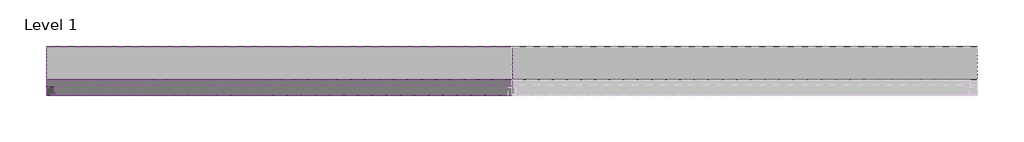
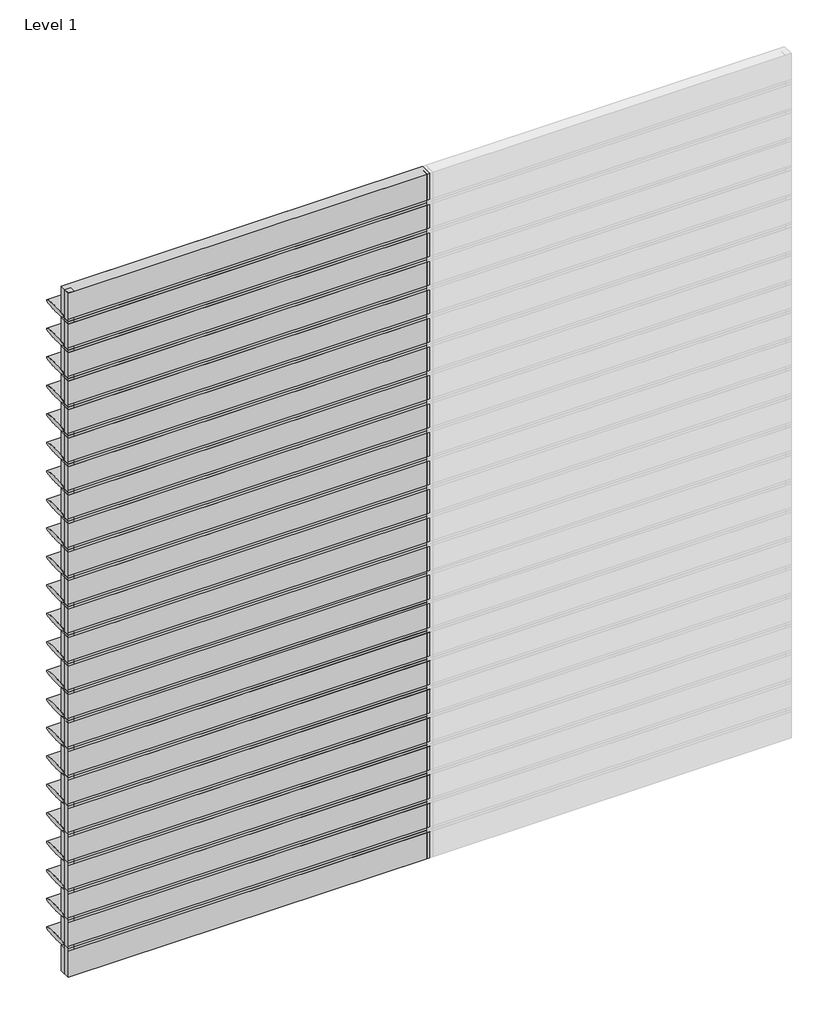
# One storey, part 1 of 2: 59 members, 48 plates.
"""IFC4 building model written with IfcOpenShell, lengths in millimetres."""

from ifc_helpers import new_model, si_unit, origin, place, context, project, spatial, transform, mapped, element, save
from components import rectangular_mullion_1c901da9, rectangular_mullion_eeaea343, empty_system_panel_empty_899e99c9, empty_system_panel_empty_cb8dddf3, empty_system_panel_empty_839ed214

model = new_model("IFC4")

# Units and contexts
model_context = context("Model", 3, world=origin())
ifc_project = project(units=[si_unit("LENGTHUNIT", "METRE", prefix="MILLI")], contexts=[model_context])

# Site, building, storey
site = spatial("IfcSite", under=ifc_project)
building = spatial("IfcBuilding", under=site)
storey = spatial("IfcBuildingStorey", under=building, Name="Level 1", Elevation=0.0)

# Members
placement = place(None, origin())
rectangular_mullion_shape = rectangular_mullion_1c901da9(model_context)
element("IfcMember", 1, ObjectType="Rectangular Mullion : RSen_21_CWM_blade - 250 ellips - 0°_gen_duco projects", at=placement, inside=storey, context=model_context, shape_type="MappedRepresentation", body=[
    mapped(rectangular_mullion_shape, transform((3000.0, 3000.0, 250.0), x_axis=(0.0, 0.0, 1.0), y_axis=(0.0, 1.0, 0.0), z_axis=(-1.0, 0.0, 0.0))),
])
element("IfcMember", 2, ObjectType="Rectangular Mullion : RSen_21_CWM_blade - 250 ellips - 0°_gen_duco projects", at=placement, inside=storey, context=model_context, shape_type="MappedRepresentation", body=[
    mapped(rectangular_mullion_shape, transform((3000.0, 3000.0, 500.0), x_axis=(0.0, 0.0, 1.0), y_axis=(0.0, 1.0, 0.0), z_axis=(-1.0, 0.0, 0.0))),
])
element("IfcMember", 3, ObjectType="Rectangular Mullion : RSen_21_CWM_blade - 250 ellips - 0°_gen_duco projects", at=placement, inside=storey, context=model_context, shape_type="MappedRepresentation", body=[
    mapped(rectangular_mullion_shape, transform((3000.0, 3000.0, 750.0), x_axis=(0.0, 0.0, 1.0), y_axis=(0.0, 1.0, 0.0), z_axis=(-1.0, 0.0, 0.0))),
])
element("IfcMember", 4, ObjectType="Rectangular Mullion : RSen_21_CWM_blade - 250 ellips - 0°_gen_duco projects", at=placement, inside=storey, context=model_context, shape_type="MappedRepresentation", body=[
    mapped(rectangular_mullion_shape, transform((3000.0, 3000.0, 1000.0), x_axis=(0.0, 0.0, 1.0), y_axis=(0.0, 1.0, 0.0), z_axis=(-1.0, 0.0, 0.0))),
])
element("IfcMember", 5, ObjectType="Rectangular Mullion : RSen_21_CWM_blade - 250 ellips - 0°_gen_duco projects", at=placement, inside=storey, context=model_context, shape_type="MappedRepresentation", body=[
    mapped(rectangular_mullion_shape, transform((3000.0, 3000.0, 1250.0), x_axis=(0.0, 0.0, 1.0), y_axis=(0.0, 1.0, 0.0), z_axis=(-1.0, 0.0, 0.0))),
])
element("IfcMember", 6, ObjectType="Rectangular Mullion : RSen_21_CWM_blade - 250 ellips - 0°_gen_duco projects", at=placement, inside=storey, context=model_context, shape_type="MappedRepresentation", body=[
    mapped(rectangular_mullion_shape, transform((3000.0, 3000.0, 1500.0), x_axis=(0.0, 0.0, 1.0), y_axis=(0.0, 1.0, 0.0), z_axis=(-1.0, 0.0, 0.0))),
])
element("IfcMember", 7, ObjectType="Rectangular Mullion : RSen_21_CWM_blade - 250 ellips - 0°_gen_duco projects", at=placement, inside=storey, context=model_context, shape_type="MappedRepresentation", body=[
    mapped(rectangular_mullion_shape, transform((3000.0, 3000.0, 1750.0), x_axis=(0.0, 0.0, 1.0), y_axis=(0.0, 1.0, 0.0), z_axis=(-1.0, 0.0, 0.0))),
])
element("IfcMember", 8, ObjectType="Rectangular Mullion : RSen_21_CWM_blade - 250 ellips - 0°_gen_duco projects", at=placement, inside=storey, context=model_context, shape_type="MappedRepresentation", body=[
    mapped(rectangular_mullion_shape, transform((3000.0, 3000.0, 2000.0), x_axis=(0.0, 0.0, 1.0), y_axis=(0.0, 1.0, 0.0), z_axis=(-1.0, 0.0, 0.0))),
])
element("IfcMember", 9, ObjectType="Rectangular Mullion : RSen_21_CWM_blade - 250 ellips - 0°_gen_duco projects", at=placement, inside=storey, context=model_context, shape_type="MappedRepresentation", body=[
    mapped(rectangular_mullion_shape, transform((3000.0, 3000.0, 2250.0), x_axis=(0.0, 0.0, 1.0), y_axis=(0.0, 1.0, 0.0), z_axis=(-1.0, 0.0, 0.0))),
])
element("IfcMember", 10, ObjectType="Rectangular Mullion : RSen_21_CWM_blade - 250 ellips - 0°_gen_duco projects", at=placement, inside=storey, context=model_context, shape_type="MappedRepresentation", body=[
    mapped(rectangular_mullion_shape, transform((3000.0, 3000.0, 2500.0), x_axis=(0.0, 0.0, 1.0), y_axis=(0.0, 1.0, 0.0), z_axis=(-1.0, 0.0, 0.0))),
])
element("IfcMember", 11, ObjectType="Rectangular Mullion : RSen_21_CWM_blade - 250 ellips - 0°_gen_duco projects", at=placement, inside=storey, context=model_context, shape_type="MappedRepresentation", body=[
    mapped(rectangular_mullion_shape, transform((3000.0, 3000.0, 2750.0), x_axis=(0.0, 0.0, 1.0), y_axis=(0.0, 1.0, 0.0), z_axis=(-1.0, 0.0, 0.0))),
])
element("IfcMember", 12, ObjectType="Rectangular Mullion : RSen_21_CWM_blade - 250 ellips - 0°_gen_duco projects", at=placement, inside=storey, context=model_context, shape_type="MappedRepresentation", body=[
    mapped(rectangular_mullion_shape, transform((3000.0, 3000.0, 3000.0), x_axis=(0.0, 0.0, 1.0), y_axis=(0.0, 1.0, 0.0), z_axis=(-1.0, 0.0, 0.0))),
])
element("IfcMember", 13, ObjectType="Rectangular Mullion : RSen_21_CWM_blade - 250 ellips - 0°_gen_duco projects", at=placement, inside=storey, context=model_context, shape_type="MappedRepresentation", body=[
    mapped(rectangular_mullion_shape, transform((0.0, 3000.0, 250.0), x_axis=(0.0, 0.0, 1.0), y_axis=(0.0, 1.0, 0.0), z_axis=(-1.0, 0.0, 0.0))),
])
element("IfcMember", 14, ObjectType="Rectangular Mullion : RSen_21_CWM_blade - 250 ellips - 0°_gen_duco projects", at=placement, inside=storey, context=model_context, shape_type="MappedRepresentation", body=[
    mapped(rectangular_mullion_shape, transform((0.0, 3000.0, 500.0), x_axis=(0.0, 0.0, 1.0), y_axis=(0.0, 1.0, 0.0), z_axis=(-1.0, 0.0, 0.0))),
])
element("IfcMember", 15, ObjectType="Rectangular Mullion : RSen_21_CWM_blade - 250 ellips - 0°_gen_duco projects", at=placement, inside=storey, context=model_context, shape_type="MappedRepresentation", body=[
    mapped(rectangular_mullion_shape, transform((0.0, 3000.0, 750.0), x_axis=(0.0, 0.0, 1.0), y_axis=(0.0, 1.0, 0.0), z_axis=(-1.0, 0.0, 0.0))),
])
element("IfcMember", 16, ObjectType="Rectangular Mullion : RSen_21_CWM_blade - 250 ellips - 0°_gen_duco projects", at=placement, inside=storey, context=model_context, shape_type="MappedRepresentation", body=[
    mapped(rectangular_mullion_shape, transform((0.0, 3000.0, 1000.0), x_axis=(0.0, 0.0, 1.0), y_axis=(0.0, 1.0, 0.0), z_axis=(-1.0, 0.0, 0.0))),
])
element("IfcMember", 17, ObjectType="Rectangular Mullion : RSen_21_CWM_blade - 250 ellips - 0°_gen_duco projects", at=placement, inside=storey, context=model_context, shape_type="MappedRepresentation", body=[
    mapped(rectangular_mullion_shape, transform((0.0, 3000.0, 1250.0), x_axis=(0.0, 0.0, 1.0), y_axis=(0.0, 1.0, 0.0), z_axis=(-1.0, 0.0, 0.0))),
])
element("IfcMember", 18, ObjectType="Rectangular Mullion : RSen_21_CWM_blade - 250 ellips - 0°_gen_duco projects", at=placement, inside=storey, context=model_context, shape_type="MappedRepresentation", body=[
    mapped(rectangular_mullion_shape, transform((0.0, 3000.0, 1500.0), x_axis=(0.0, 0.0, 1.0), y_axis=(0.0, 1.0, 0.0), z_axis=(-1.0, 0.0, 0.0))),
])
element("IfcMember", 19, ObjectType="Rectangular Mullion : RSen_21_CWM_blade - 250 ellips - 0°_gen_duco projects", at=placement, inside=storey, context=model_context, shape_type="MappedRepresentation", body=[
    mapped(rectangular_mullion_shape, transform((0.0, 3000.0, 1750.0), x_axis=(0.0, 0.0, 1.0), y_axis=(0.0, 1.0, 0.0), z_axis=(-1.0, 0.0, 0.0))),
])
element("IfcMember", 20, ObjectType="Rectangular Mullion : RSen_21_CWM_blade - 250 ellips - 0°_gen_duco projects", at=placement, inside=storey, context=model_context, shape_type="MappedRepresentation", body=[
    mapped(rectangular_mullion_shape, transform((0.0, 3000.0, 2000.0), x_axis=(0.0, 0.0, 1.0), y_axis=(0.0, 1.0, 0.0), z_axis=(-1.0, 0.0, 0.0))),
])
element("IfcMember", 21, ObjectType="Rectangular Mullion : RSen_21_CWM_blade - 250 ellips - 0°_gen_duco projects", at=placement, inside=storey, context=model_context, shape_type="MappedRepresentation", body=[
    mapped(rectangular_mullion_shape, transform((0.0, 3000.0, 2250.0), x_axis=(0.0, 0.0, 1.0), y_axis=(0.0, 1.0, 0.0), z_axis=(-1.0, 0.0, 0.0))),
])
element("IfcMember", 22, ObjectType="Rectangular Mullion : RSen_21_CWM_blade - 250 ellips - 0°_gen_duco projects", at=placement, inside=storey, context=model_context, shape_type="MappedRepresentation", body=[
    mapped(rectangular_mullion_shape, transform((0.0, 3000.0, 2500.0), x_axis=(0.0, 0.0, 1.0), y_axis=(0.0, 1.0, 0.0), z_axis=(-1.0, 0.0, 0.0))),
])
element("IfcMember", 23, ObjectType="Rectangular Mullion : RSen_21_CWM_blade - 250 ellips - 0°_gen_duco projects", at=placement, inside=storey, context=model_context, shape_type="MappedRepresentation", body=[
    mapped(rectangular_mullion_shape, transform((0.0, 3000.0, 2750.0), x_axis=(0.0, 0.0, 1.0), y_axis=(0.0, 1.0, 0.0), z_axis=(-1.0, 0.0, 0.0))),
])
element("IfcMember", 24, ObjectType="Rectangular Mullion : RSen_21_CWM_blade - 250 ellips - 0°_gen_duco projects", at=placement, inside=storey, context=model_context, shape_type="MappedRepresentation", body=[
    mapped(rectangular_mullion_shape, transform((0.0, 3000.0, 3000.0), x_axis=(0.0, 0.0, 1.0), y_axis=(0.0, 1.0, 0.0), z_axis=(-1.0, 0.0, 0.0))),
])
element("IfcMember", 25, ObjectType="Rectangular Mullion : RSen_21_CWM_blade - 250 ellips - 0°_gen_duco projects", at=placement, inside=storey, context=model_context, shape_type="MappedRepresentation", body=[
    mapped(rectangular_mullion_shape, transform((0.0, 3000.0, 3250.0), x_axis=(0.0, 0.0, 1.0), y_axis=(0.0, 1.0, 0.0), z_axis=(-1.0, 0.0, 0.0))),
])
element("IfcMember", 26, ObjectType="Rectangular Mullion : RSen_21_CWM_blade - 250 ellips - 0°_gen_duco projects", at=placement, inside=storey, context=model_context, shape_type="MappedRepresentation", body=[
    mapped(rectangular_mullion_shape, transform((0.0, 3000.0, 3500.0), x_axis=(0.0, 0.0, 1.0), y_axis=(0.0, 1.0, 0.0), z_axis=(-1.0, 0.0, 0.0))),
])
element("IfcMember", 27, ObjectType="Rectangular Mullion : RSen_21_CWM_blade - 250 ellips - 0°_gen_duco projects", at=placement, inside=storey, context=model_context, shape_type="MappedRepresentation", body=[
    mapped(rectangular_mullion_shape, transform((0.0, 3000.0, 3750.0), x_axis=(0.0, 0.0, 1.0), y_axis=(0.0, 1.0, 0.0), z_axis=(-1.0, 0.0, 0.0))),
])
element("IfcMember", 28, ObjectType="Rectangular Mullion : RSen_21_CWM_blade - 250 ellips - 0°_gen_duco projects", at=placement, inside=storey, context=model_context, shape_type="MappedRepresentation", body=[
    mapped(rectangular_mullion_shape, transform((0.0, 3000.0, 4000.0), x_axis=(0.0, 0.0, 1.0), y_axis=(0.0, 1.0, 0.0), z_axis=(-1.0, 0.0, 0.0))),
])
element("IfcMember", 29, ObjectType="Rectangular Mullion : RSen_21_CWM_blade - 250 ellips - 0°_gen_duco projects", at=placement, inside=storey, context=model_context, shape_type="MappedRepresentation", body=[
    mapped(rectangular_mullion_shape, transform((0.0, 3000.0, 4250.0), x_axis=(0.0, 0.0, 1.0), y_axis=(0.0, 1.0, 0.0), z_axis=(-1.0, 0.0, 0.0))),
])
element("IfcMember", 30, ObjectType="Rectangular Mullion : RSen_21_CWM_blade - 250 ellips - 0°_gen_duco projects", at=placement, inside=storey, context=model_context, shape_type="MappedRepresentation", body=[
    mapped(rectangular_mullion_shape, transform((0.0, 3000.0, 4500.0), x_axis=(0.0, 0.0, 1.0), y_axis=(0.0, 1.0, 0.0), z_axis=(-1.0, 0.0, 0.0))),
])
element("IfcMember", 31, ObjectType="Rectangular Mullion : RSen_21_CWM_blade - 250 ellips - 0°_gen_duco projects", at=placement, inside=storey, context=model_context, shape_type="MappedRepresentation", body=[
    mapped(rectangular_mullion_shape, transform((0.0, 3000.0, 4750.0), x_axis=(0.0, 0.0, 1.0), y_axis=(0.0, 1.0, 0.0), z_axis=(-1.0, 0.0, 0.0))),
])
element("IfcMember", 32, ObjectType="Rectangular Mullion : RSen_21_CWM_blade - 250 ellips - 0°_gen_duco projects", at=placement, inside=storey, context=model_context, shape_type="MappedRepresentation", body=[
    mapped(rectangular_mullion_shape, transform((0.0, 3000.0, 5000.0), x_axis=(0.0, 0.0, 1.0), y_axis=(0.0, 1.0, 0.0), z_axis=(-1.0, 0.0, 0.0))),
])
element("IfcMember", 33, ObjectType="Rectangular Mullion : RSen_21_CWM_blade - 250 ellips - 0°_gen_duco projects", at=placement, inside=storey, context=model_context, shape_type="MappedRepresentation", body=[
    mapped(rectangular_mullion_shape, transform((0.0, 3000.0, 5250.0), x_axis=(0.0, 0.0, 1.0), y_axis=(0.0, 1.0, 0.0), z_axis=(-1.0, 0.0, 0.0))),
])
element("IfcMember", 34, ObjectType="Rectangular Mullion : RSen_21_CWM_blade - 250 ellips - 0°_gen_duco projects", at=placement, inside=storey, context=model_context, shape_type="MappedRepresentation", body=[
    mapped(rectangular_mullion_shape, transform((0.0, 3000.0, 5500.0), x_axis=(0.0, 0.0, 1.0), y_axis=(0.0, 1.0, 0.0), z_axis=(-1.0, 0.0, 0.0))),
])
element("IfcMember", 35, ObjectType="Rectangular Mullion : RSen_21_CWM_blade - 250 ellips - 0°_gen_duco projects", at=placement, inside=storey, context=model_context, shape_type="MappedRepresentation", body=[
    mapped(rectangular_mullion_shape, transform((0.0, 3000.0, 5750.0), x_axis=(0.0, 0.0, 1.0), y_axis=(0.0, 1.0, 0.0), z_axis=(-1.0, 0.0, 0.0))),
])
rectangular_mullion_2_shape = rectangular_mullion_eeaea343(model_context)
element("IfcMember", 36, ObjectType="Rectangular Mullion : RSen_21_CWM_support profile 50x50 - left_gen_duco projects", at=placement, inside=storey, context=model_context, shape_type="MappedRepresentation", body=[
    mapped(rectangular_mullion_2_shape, transform((0.0, 3000.0, 0.0), x_axis=(-1.0, 0.0, 0.0), y_axis=(0.0, 1.0, 0.0), z_axis=(0.0, 0.0, -1.0))),
])
element("IfcMember", 37, ObjectType="Rectangular Mullion : RSen_21_CWM_support profile 50x50 - left_gen_duco projects", at=placement, inside=storey, context=model_context, shape_type="MappedRepresentation", body=[
    mapped(rectangular_mullion_2_shape, transform((0.0, 3000.0, 250.0), x_axis=(-1.0, 0.0, 0.0), y_axis=(0.0, 1.0, 0.0), z_axis=(0.0, 0.0, -1.0))),
])
element("IfcMember", 38, ObjectType="Rectangular Mullion : RSen_21_CWM_support profile 50x50 - left_gen_duco projects", at=placement, inside=storey, context=model_context, shape_type="MappedRepresentation", body=[
    mapped(rectangular_mullion_2_shape, transform((0.0, 3000.0, 500.0), x_axis=(-1.0, 0.0, 0.0), y_axis=(0.0, 1.0, 0.0), z_axis=(0.0, 0.0, -1.0))),
])
element("IfcMember", 39, ObjectType="Rectangular Mullion : RSen_21_CWM_support profile 50x50 - left_gen_duco projects", at=placement, inside=storey, context=model_context, shape_type="MappedRepresentation", body=[
    mapped(rectangular_mullion_2_shape, transform((0.0, 3000.0, 750.0), x_axis=(-1.0, 0.0, 0.0), y_axis=(0.0, 1.0, 0.0), z_axis=(0.0, 0.0, -1.0))),
])
element("IfcMember", 40, ObjectType="Rectangular Mullion : RSen_21_CWM_support profile 50x50 - left_gen_duco projects", at=placement, inside=storey, context=model_context, shape_type="MappedRepresentation", body=[
    mapped(rectangular_mullion_2_shape, transform((0.0, 3000.0, 1000.0), x_axis=(-1.0, 0.0, 0.0), y_axis=(0.0, 1.0, 0.0), z_axis=(0.0, 0.0, -1.0))),
])
element("IfcMember", 41, ObjectType="Rectangular Mullion : RSen_21_CWM_support profile 50x50 - left_gen_duco projects", at=placement, inside=storey, context=model_context, shape_type="MappedRepresentation", body=[
    mapped(rectangular_mullion_2_shape, transform((0.0, 3000.0, 1250.0), x_axis=(-1.0, 0.0, 0.0), y_axis=(0.0, 1.0, 0.0), z_axis=(0.0, 0.0, -1.0))),
])
element("IfcMember", 42, ObjectType="Rectangular Mullion : RSen_21_CWM_support profile 50x50 - left_gen_duco projects", at=placement, inside=storey, context=model_context, shape_type="MappedRepresentation", body=[
    mapped(rectangular_mullion_2_shape, transform((0.0, 3000.0, 1500.0), x_axis=(-1.0, 0.0, 0.0), y_axis=(0.0, 1.0, 0.0), z_axis=(0.0, 0.0, -1.0))),
])
element("IfcMember", 43, ObjectType="Rectangular Mullion : RSen_21_CWM_support profile 50x50 - left_gen_duco projects", at=placement, inside=storey, context=model_context, shape_type="MappedRepresentation", body=[
    mapped(rectangular_mullion_2_shape, transform((0.0, 3000.0, 1750.0), x_axis=(-1.0, 0.0, 0.0), y_axis=(0.0, 1.0, 0.0), z_axis=(0.0, 0.0, -1.0))),
])
element("IfcMember", 44, ObjectType="Rectangular Mullion : RSen_21_CWM_support profile 50x50 - left_gen_duco projects", at=placement, inside=storey, context=model_context, shape_type="MappedRepresentation", body=[
    mapped(rectangular_mullion_2_shape, transform((0.0, 3000.0, 2000.0), x_axis=(-1.0, 0.0, 0.0), y_axis=(0.0, 1.0, 0.0), z_axis=(0.0, 0.0, -1.0))),
])
element("IfcMember", 45, ObjectType="Rectangular Mullion : RSen_21_CWM_support profile 50x50 - left_gen_duco projects", at=placement, inside=storey, context=model_context, shape_type="MappedRepresentation", body=[
    mapped(rectangular_mullion_2_shape, transform((0.0, 3000.0, 2250.0), x_axis=(-1.0, 0.0, 0.0), y_axis=(0.0, 1.0, 0.0), z_axis=(0.0, 0.0, -1.0))),
])
element("IfcMember", 46, ObjectType="Rectangular Mullion : RSen_21_CWM_support profile 50x50 - left_gen_duco projects", at=placement, inside=storey, context=model_context, shape_type="MappedRepresentation", body=[
    mapped(rectangular_mullion_2_shape, transform((0.0, 3000.0, 2500.0), x_axis=(-1.0, 0.0, 0.0), y_axis=(0.0, 1.0, 0.0), z_axis=(0.0, 0.0, -1.0))),
])
element("IfcMember", 47, ObjectType="Rectangular Mullion : RSen_21_CWM_support profile 50x50 - left_gen_duco projects", at=placement, inside=storey, context=model_context, shape_type="MappedRepresentation", body=[
    mapped(rectangular_mullion_2_shape, transform((0.0, 3000.0, 2750.0), x_axis=(-1.0, 0.0, 0.0), y_axis=(0.0, 1.0, 0.0), z_axis=(0.0, 0.0, -1.0))),
])
element("IfcMember", 48, ObjectType="Rectangular Mullion : RSen_21_CWM_support profile 50x50 - left_gen_duco projects", at=placement, inside=storey, context=model_context, shape_type="MappedRepresentation", body=[
    mapped(rectangular_mullion_2_shape, transform((0.0, 3000.0, 3000.0), x_axis=(-1.0, 0.0, 0.0), y_axis=(0.0, 1.0, 0.0), z_axis=(0.0, 0.0, -1.0))),
])
element("IfcMember", 49, ObjectType="Rectangular Mullion : RSen_21_CWM_support profile 50x50 - left_gen_duco projects", at=placement, inside=storey, context=model_context, shape_type="MappedRepresentation", body=[
    mapped(rectangular_mullion_2_shape, transform((0.0, 3000.0, 3250.0), x_axis=(-1.0, 0.0, 0.0), y_axis=(0.0, 1.0, 0.0), z_axis=(0.0, 0.0, -1.0))),
])
element("IfcMember", 50, ObjectType="Rectangular Mullion : RSen_21_CWM_support profile 50x50 - left_gen_duco projects", at=placement, inside=storey, context=model_context, shape_type="MappedRepresentation", body=[
    mapped(rectangular_mullion_2_shape, transform((0.0, 3000.0, 3500.0), x_axis=(-1.0, 0.0, 0.0), y_axis=(0.0, 1.0, 0.0), z_axis=(0.0, 0.0, -1.0))),
])
element("IfcMember", 51, ObjectType="Rectangular Mullion : RSen_21_CWM_support profile 50x50 - left_gen_duco projects", at=placement, inside=storey, context=model_context, shape_type="MappedRepresentation", body=[
    mapped(rectangular_mullion_2_shape, transform((0.0, 3000.0, 3750.0), x_axis=(-1.0, 0.0, 0.0), y_axis=(0.0, 1.0, 0.0), z_axis=(0.0, 0.0, -1.0))),
])
element("IfcMember", 52, ObjectType="Rectangular Mullion : RSen_21_CWM_support profile 50x50 - left_gen_duco projects", at=placement, inside=storey, context=model_context, shape_type="MappedRepresentation", body=[
    mapped(rectangular_mullion_2_shape, transform((0.0, 3000.0, 4000.0), x_axis=(-1.0, 0.0, 0.0), y_axis=(0.0, 1.0, 0.0), z_axis=(0.0, 0.0, -1.0))),
])
element("IfcMember", 53, ObjectType="Rectangular Mullion : RSen_21_CWM_support profile 50x50 - left_gen_duco projects", at=placement, inside=storey, context=model_context, shape_type="MappedRepresentation", body=[
    mapped(rectangular_mullion_2_shape, transform((0.0, 3000.0, 4250.0), x_axis=(-1.0, 0.0, 0.0), y_axis=(0.0, 1.0, 0.0), z_axis=(0.0, 0.0, -1.0))),
])
element("IfcMember", 54, ObjectType="Rectangular Mullion : RSen_21_CWM_support profile 50x50 - left_gen_duco projects", at=placement, inside=storey, context=model_context, shape_type="MappedRepresentation", body=[
    mapped(rectangular_mullion_2_shape, transform((0.0, 3000.0, 4500.0), x_axis=(-1.0, 0.0, 0.0), y_axis=(0.0, 1.0, 0.0), z_axis=(0.0, 0.0, -1.0))),
])
element("IfcMember", 55, ObjectType="Rectangular Mullion : RSen_21_CWM_support profile 50x50 - left_gen_duco projects", at=placement, inside=storey, context=model_context, shape_type="MappedRepresentation", body=[
    mapped(rectangular_mullion_2_shape, transform((0.0, 3000.0, 4750.0), x_axis=(-1.0, 0.0, 0.0), y_axis=(0.0, 1.0, 0.0), z_axis=(0.0, 0.0, -1.0))),
])
element("IfcMember", 56, ObjectType="Rectangular Mullion : RSen_21_CWM_support profile 50x50 - left_gen_duco projects", at=placement, inside=storey, context=model_context, shape_type="MappedRepresentation", body=[
    mapped(rectangular_mullion_2_shape, transform((0.0, 3000.0, 5000.0), x_axis=(-1.0, 0.0, 0.0), y_axis=(0.0, 1.0, 0.0), z_axis=(0.0, 0.0, -1.0))),
])
element("IfcMember", 57, ObjectType="Rectangular Mullion : RSen_21_CWM_support profile 50x50 - left_gen_duco projects", at=placement, inside=storey, context=model_context, shape_type="MappedRepresentation", body=[
    mapped(rectangular_mullion_2_shape, transform((0.0, 3000.0, 5250.0), x_axis=(-1.0, 0.0, 0.0), y_axis=(0.0, 1.0, 0.0), z_axis=(0.0, 0.0, -1.0))),
])
element("IfcMember", 58, ObjectType="Rectangular Mullion : RSen_21_CWM_support profile 50x50 - left_gen_duco projects", at=placement, inside=storey, context=model_context, shape_type="MappedRepresentation", body=[
    mapped(rectangular_mullion_2_shape, transform((0.0, 3000.0, 5500.0), x_axis=(-1.0, 0.0, 0.0), y_axis=(0.0, 1.0, 0.0), z_axis=(0.0, 0.0, -1.0))),
])
element("IfcMember", 59, ObjectType="Rectangular Mullion : RSen_21_CWM_support profile 50x50 - left_gen_duco projects", at=placement, inside=storey, context=model_context, shape_type="MappedRepresentation", body=[
    mapped(rectangular_mullion_2_shape, transform((0.0, 3000.0, 5750.0), x_axis=(-1.0, 0.0, 0.0), y_axis=(0.0, 1.0, 0.0), z_axis=(0.0, 0.0, -1.0))),
])

# Plates
empty_system_panel_empty_shape = empty_system_panel_empty_899e99c9(model_context)
element("IfcPlate", 60, ObjectType="Empty System Panel : Empty", at=placement, inside=storey, context=model_context, shape_type="MappedRepresentation", body=[
    mapped(empty_system_panel_empty_shape, transform((1500.0, 3000.0, 0.0), x_axis=(-1.0, 0.0, 0.0), y_axis=(0.0, -1.0, 0.0), z_axis=(0.0, 0.0, 1.0))),
])
element("IfcPlate", 61, ObjectType="Empty System Panel : Empty", at=placement, inside=storey, context=model_context, shape_type="MappedRepresentation", body=[
    mapped(empty_system_panel_empty_shape, transform((1500.0, 3000.0, 5771.75), x_axis=(-1.0, 0.0, 0.0), y_axis=(0.0, -1.0, 0.0), z_axis=(0.0, 0.0, 1.0))),
])
empty_system_panel_empty_2_shape = empty_system_panel_empty_cb8dddf3(model_context)
element("IfcPlate", 62, ObjectType="Empty System Panel : Empty", at=placement, inside=storey, context=model_context, shape_type="MappedRepresentation", body=[
    mapped(empty_system_panel_empty_2_shape, transform((1500.0, 3000.0, 271.75), x_axis=(-1.0, 0.0, 0.0), y_axis=(0.0, -1.0, 0.0), z_axis=(0.0, 0.0, 1.0))),
])
element("IfcPlate", 63, ObjectType="Empty System Panel : Empty", at=placement, inside=storey, context=model_context, shape_type="MappedRepresentation", body=[
    mapped(empty_system_panel_empty_2_shape, transform((1500.0, 3000.0, 521.75), x_axis=(-1.0, 0.0, 0.0), y_axis=(0.0, -1.0, 0.0), z_axis=(0.0, 0.0, 1.0))),
])
element("IfcPlate", 64, ObjectType="Empty System Panel : Empty", at=placement, inside=storey, context=model_context, shape_type="MappedRepresentation", body=[
    mapped(empty_system_panel_empty_2_shape, transform((1500.0, 3000.0, 771.75), x_axis=(-1.0, 0.0, 0.0), y_axis=(0.0, -1.0, 0.0), z_axis=(0.0, 0.0, 1.0))),
])
element("IfcPlate", 65, ObjectType="Empty System Panel : Empty", at=placement, inside=storey, context=model_context, shape_type="MappedRepresentation", body=[
    mapped(empty_system_panel_empty_2_shape, transform((1500.0, 3000.0, 1021.75), x_axis=(-1.0, 0.0, 0.0), y_axis=(0.0, -1.0, 0.0), z_axis=(0.0, 0.0, 1.0))),
])
element("IfcPlate", 66, ObjectType="Empty System Panel : Empty", at=placement, inside=storey, context=model_context, shape_type="MappedRepresentation", body=[
    mapped(empty_system_panel_empty_2_shape, transform((1500.0, 3000.0, 1271.75), x_axis=(-1.0, 0.0, 0.0), y_axis=(0.0, -1.0, 0.0), z_axis=(0.0, 0.0, 1.0))),
])
element("IfcPlate", 67, ObjectType="Empty System Panel : Empty", at=placement, inside=storey, context=model_context, shape_type="MappedRepresentation", body=[
    mapped(empty_system_panel_empty_2_shape, transform((1500.0, 3000.0, 1521.75), x_axis=(-1.0, 0.0, 0.0), y_axis=(0.0, -1.0, 0.0), z_axis=(0.0, 0.0, 1.0))),
])
element("IfcPlate", 68, ObjectType="Empty System Panel : Empty", at=placement, inside=storey, context=model_context, shape_type="MappedRepresentation", body=[
    mapped(empty_system_panel_empty_2_shape, transform((1500.0, 3000.0, 1771.75), x_axis=(-1.0, 0.0, 0.0), y_axis=(0.0, -1.0, 0.0), z_axis=(0.0, 0.0, 1.0))),
])
element("IfcPlate", 69, ObjectType="Empty System Panel : Empty", at=placement, inside=storey, context=model_context, shape_type="MappedRepresentation", body=[
    mapped(empty_system_panel_empty_2_shape, transform((1500.0, 3000.0, 2021.75), x_axis=(-1.0, 0.0, 0.0), y_axis=(0.0, -1.0, 0.0), z_axis=(0.0, 0.0, 1.0))),
])
element("IfcPlate", 70, ObjectType="Empty System Panel : Empty", at=placement, inside=storey, context=model_context, shape_type="MappedRepresentation", body=[
    mapped(empty_system_panel_empty_2_shape, transform((1500.0, 3000.0, 2271.75), x_axis=(-1.0, 0.0, 0.0), y_axis=(0.0, -1.0, 0.0), z_axis=(0.0, 0.0, 1.0))),
])
element("IfcPlate", 71, ObjectType="Empty System Panel : Empty", at=placement, inside=storey, context=model_context, shape_type="MappedRepresentation", body=[
    mapped(empty_system_panel_empty_2_shape, transform((1500.0, 3000.0, 2521.75), x_axis=(-1.0, 0.0, 0.0), y_axis=(0.0, -1.0, 0.0), z_axis=(0.0, 0.0, 1.0))),
])
element("IfcPlate", 72, ObjectType="Empty System Panel : Empty", at=placement, inside=storey, context=model_context, shape_type="MappedRepresentation", body=[
    mapped(empty_system_panel_empty_2_shape, transform((1500.0, 3000.0, 2771.75), x_axis=(-1.0, 0.0, 0.0), y_axis=(0.0, -1.0, 0.0), z_axis=(0.0, 0.0, 1.0))),
])
element("IfcPlate", 73, ObjectType="Empty System Panel : Empty", at=placement, inside=storey, context=model_context, shape_type="MappedRepresentation", body=[
    mapped(empty_system_panel_empty_2_shape, transform((1500.0, 3000.0, 3021.75), x_axis=(-1.0, 0.0, 0.0), y_axis=(0.0, -1.0, 0.0), z_axis=(0.0, 0.0, 1.0))),
])
element("IfcPlate", 74, ObjectType="Empty System Panel : Empty", at=placement, inside=storey, context=model_context, shape_type="MappedRepresentation", body=[
    mapped(empty_system_panel_empty_2_shape, transform((1500.0, 3000.0, 3271.75), x_axis=(-1.0, 0.0, 0.0), y_axis=(0.0, -1.0, 0.0), z_axis=(0.0, 0.0, 1.0))),
])
element("IfcPlate", 75, ObjectType="Empty System Panel : Empty", at=placement, inside=storey, context=model_context, shape_type="MappedRepresentation", body=[
    mapped(empty_system_panel_empty_2_shape, transform((1500.0, 3000.0, 3521.75), x_axis=(-1.0, 0.0, 0.0), y_axis=(0.0, -1.0, 0.0), z_axis=(0.0, 0.0, 1.0))),
])
element("IfcPlate", 76, ObjectType="Empty System Panel : Empty", at=placement, inside=storey, context=model_context, shape_type="MappedRepresentation", body=[
    mapped(empty_system_panel_empty_2_shape, transform((1500.0, 3000.0, 3771.75), x_axis=(-1.0, 0.0, 0.0), y_axis=(0.0, -1.0, 0.0), z_axis=(0.0, 0.0, 1.0))),
])
element("IfcPlate", 77, ObjectType="Empty System Panel : Empty", at=placement, inside=storey, context=model_context, shape_type="MappedRepresentation", body=[
    mapped(empty_system_panel_empty_2_shape, transform((1500.0, 3000.0, 4021.75), x_axis=(-1.0, 0.0, 0.0), y_axis=(0.0, -1.0, 0.0), z_axis=(0.0, 0.0, 1.0))),
])
element("IfcPlate", 78, ObjectType="Empty System Panel : Empty", at=placement, inside=storey, context=model_context, shape_type="MappedRepresentation", body=[
    mapped(empty_system_panel_empty_2_shape, transform((1500.0, 3000.0, 4271.75), x_axis=(-1.0, 0.0, 0.0), y_axis=(0.0, -1.0, 0.0), z_axis=(0.0, 0.0, 1.0))),
])
element("IfcPlate", 79, ObjectType="Empty System Panel : Empty", at=placement, inside=storey, context=model_context, shape_type="MappedRepresentation", body=[
    mapped(empty_system_panel_empty_2_shape, transform((1500.0, 3000.0, 4521.75), x_axis=(-1.0, 0.0, 0.0), y_axis=(0.0, -1.0, 0.0), z_axis=(0.0, 0.0, 1.0))),
])
element("IfcPlate", 80, ObjectType="Empty System Panel : Empty", at=placement, inside=storey, context=model_context, shape_type="MappedRepresentation", body=[
    mapped(empty_system_panel_empty_2_shape, transform((1500.0, 3000.0, 4771.75), x_axis=(-1.0, 0.0, 0.0), y_axis=(0.0, -1.0, 0.0), z_axis=(0.0, 0.0, 1.0))),
])
element("IfcPlate", 81, ObjectType="Empty System Panel : Empty", at=placement, inside=storey, context=model_context, shape_type="MappedRepresentation", body=[
    mapped(empty_system_panel_empty_2_shape, transform((1500.0, 3000.0, 5021.75), x_axis=(-1.0, 0.0, 0.0), y_axis=(0.0, -1.0, 0.0), z_axis=(0.0, 0.0, 1.0))),
])
element("IfcPlate", 82, ObjectType="Empty System Panel : Empty", at=placement, inside=storey, context=model_context, shape_type="MappedRepresentation", body=[
    mapped(empty_system_panel_empty_2_shape, transform((1500.0, 3000.0, 5271.75), x_axis=(-1.0, 0.0, 0.0), y_axis=(0.0, -1.0, 0.0), z_axis=(0.0, 0.0, 1.0))),
])
element("IfcPlate", 83, ObjectType="Empty System Panel : Empty", at=placement, inside=storey, context=model_context, shape_type="MappedRepresentation", body=[
    mapped(empty_system_panel_empty_2_shape, transform((1500.0, 3000.0, 5521.75), x_axis=(-1.0, 0.0, 0.0), y_axis=(0.0, -1.0, 0.0), z_axis=(0.0, 0.0, 1.0))),
])
empty_system_panel_empty_3_shape = empty_system_panel_empty_839ed214(model_context)
element("IfcPlate", 84, ObjectType="Empty System Panel : Empty", at=placement, inside=storey, context=model_context, shape_type="MappedRepresentation", body=[
    mapped(empty_system_panel_empty_3_shape, transform((1512.5, 3000.0, 0.0), x_axis=(-1.0, 0.0, 0.0), y_axis=(0.0, -1.0, 0.0), z_axis=(0.0, 0.0, 1.0))),
])
element("IfcPlate", 85, ObjectType="Empty System Panel : Empty", at=placement, inside=storey, context=model_context, shape_type="MappedRepresentation", body=[
    mapped(empty_system_panel_empty_3_shape, transform((1512.5, 3000.0, 250.0), x_axis=(-1.0, 0.0, 0.0), y_axis=(0.0, -1.0, 0.0), z_axis=(0.0, 0.0, 1.0))),
])
element("IfcPlate", 86, ObjectType="Empty System Panel : Empty", at=placement, inside=storey, context=model_context, shape_type="MappedRepresentation", body=[
    mapped(empty_system_panel_empty_3_shape, transform((1512.5, 3000.0, 500.0), x_axis=(-1.0, 0.0, 0.0), y_axis=(0.0, -1.0, 0.0), z_axis=(0.0, 0.0, 1.0))),
])
element("IfcPlate", 87, ObjectType="Empty System Panel : Empty", at=placement, inside=storey, context=model_context, shape_type="MappedRepresentation", body=[
    mapped(empty_system_panel_empty_3_shape, transform((1512.5, 3000.0, 750.0), x_axis=(-1.0, 0.0, 0.0), y_axis=(0.0, -1.0, 0.0), z_axis=(0.0, 0.0, 1.0))),
])
element("IfcPlate", 88, ObjectType="Empty System Panel : Empty", at=placement, inside=storey, context=model_context, shape_type="MappedRepresentation", body=[
    mapped(empty_system_panel_empty_3_shape, transform((1512.5, 3000.0, 1000.0), x_axis=(-1.0, 0.0, 0.0), y_axis=(0.0, -1.0, 0.0), z_axis=(0.0, 0.0, 1.0))),
])
element("IfcPlate", 89, ObjectType="Empty System Panel : Empty", at=placement, inside=storey, context=model_context, shape_type="MappedRepresentation", body=[
    mapped(empty_system_panel_empty_3_shape, transform((1512.5, 3000.0, 1250.0), x_axis=(-1.0, 0.0, 0.0), y_axis=(0.0, -1.0, 0.0), z_axis=(0.0, 0.0, 1.0))),
])
element("IfcPlate", 90, ObjectType="Empty System Panel : Empty", at=placement, inside=storey, context=model_context, shape_type="MappedRepresentation", body=[
    mapped(empty_system_panel_empty_3_shape, transform((1512.5, 3000.0, 1500.0), x_axis=(-1.0, 0.0, 0.0), y_axis=(0.0, -1.0, 0.0), z_axis=(0.0, 0.0, 1.0))),
])
element("IfcPlate", 91, ObjectType="Empty System Panel : Empty", at=placement, inside=storey, context=model_context, shape_type="MappedRepresentation", body=[
    mapped(empty_system_panel_empty_3_shape, transform((1512.5, 3000.0, 1750.0), x_axis=(-1.0, 0.0, 0.0), y_axis=(0.0, -1.0, 0.0), z_axis=(0.0, 0.0, 1.0))),
])
element("IfcPlate", 92, ObjectType="Empty System Panel : Empty", at=placement, inside=storey, context=model_context, shape_type="MappedRepresentation", body=[
    mapped(empty_system_panel_empty_3_shape, transform((1512.5, 3000.0, 2000.0), x_axis=(-1.0, 0.0, 0.0), y_axis=(0.0, -1.0, 0.0), z_axis=(0.0, 0.0, 1.0))),
])
element("IfcPlate", 93, ObjectType="Empty System Panel : Empty", at=placement, inside=storey, context=model_context, shape_type="MappedRepresentation", body=[
    mapped(empty_system_panel_empty_3_shape, transform((1512.5, 3000.0, 2250.0), x_axis=(-1.0, 0.0, 0.0), y_axis=(0.0, -1.0, 0.0), z_axis=(0.0, 0.0, 1.0))),
])
element("IfcPlate", 94, ObjectType="Empty System Panel : Empty", at=placement, inside=storey, context=model_context, shape_type="MappedRepresentation", body=[
    mapped(empty_system_panel_empty_3_shape, transform((1512.5, 3000.0, 2500.0), x_axis=(-1.0, 0.0, 0.0), y_axis=(0.0, -1.0, 0.0), z_axis=(0.0, 0.0, 1.0))),
])
element("IfcPlate", 95, ObjectType="Empty System Panel : Empty", at=placement, inside=storey, context=model_context, shape_type="MappedRepresentation", body=[
    mapped(empty_system_panel_empty_3_shape, transform((1512.5, 3000.0, 2750.0), x_axis=(-1.0, 0.0, 0.0), y_axis=(0.0, -1.0, 0.0), z_axis=(0.0, 0.0, 1.0))),
])
element("IfcPlate", 96, ObjectType="Empty System Panel : Empty", at=placement, inside=storey, context=model_context, shape_type="MappedRepresentation", body=[
    mapped(empty_system_panel_empty_3_shape, transform((1512.5, 3000.0, 3000.0), x_axis=(-1.0, 0.0, 0.0), y_axis=(0.0, -1.0, 0.0), z_axis=(0.0, 0.0, 1.0))),
])
element("IfcPlate", 97, ObjectType="Empty System Panel : Empty", at=placement, inside=storey, context=model_context, shape_type="MappedRepresentation", body=[
    mapped(empty_system_panel_empty_3_shape, transform((1512.5, 3000.0, 3250.0), x_axis=(-1.0, 0.0, 0.0), y_axis=(0.0, -1.0, 0.0), z_axis=(0.0, 0.0, 1.0))),
])
element("IfcPlate", 98, ObjectType="Empty System Panel : Empty", at=placement, inside=storey, context=model_context, shape_type="MappedRepresentation", body=[
    mapped(empty_system_panel_empty_3_shape, transform((1512.5, 3000.0, 3500.0), x_axis=(-1.0, 0.0, 0.0), y_axis=(0.0, -1.0, 0.0), z_axis=(0.0, 0.0, 1.0))),
])
element("IfcPlate", 99, ObjectType="Empty System Panel : Empty", at=placement, inside=storey, context=model_context, shape_type="MappedRepresentation", body=[
    mapped(empty_system_panel_empty_3_shape, transform((1512.5, 3000.0, 3750.0), x_axis=(-1.0, 0.0, 0.0), y_axis=(0.0, -1.0, 0.0), z_axis=(0.0, 0.0, 1.0))),
])
element("IfcPlate", 100, ObjectType="Empty System Panel : Empty", at=placement, inside=storey, context=model_context, shape_type="MappedRepresentation", body=[
    mapped(empty_system_panel_empty_3_shape, transform((1512.5, 3000.0, 4000.0), x_axis=(-1.0, 0.0, 0.0), y_axis=(0.0, -1.0, 0.0), z_axis=(0.0, 0.0, 1.0))),
])
element("IfcPlate", 101, ObjectType="Empty System Panel : Empty", at=placement, inside=storey, context=model_context, shape_type="MappedRepresentation", body=[
    mapped(empty_system_panel_empty_3_shape, transform((1512.5, 3000.0, 4250.0), x_axis=(-1.0, 0.0, 0.0), y_axis=(0.0, -1.0, 0.0), z_axis=(0.0, 0.0, 1.0))),
])
element("IfcPlate", 102, ObjectType="Empty System Panel : Empty", at=placement, inside=storey, context=model_context, shape_type="MappedRepresentation", body=[
    mapped(empty_system_panel_empty_3_shape, transform((1512.5, 3000.0, 4500.0), x_axis=(-1.0, 0.0, 0.0), y_axis=(0.0, -1.0, 0.0), z_axis=(0.0, 0.0, 1.0))),
])
element("IfcPlate", 103, ObjectType="Empty System Panel : Empty", at=placement, inside=storey, context=model_context, shape_type="MappedRepresentation", body=[
    mapped(empty_system_panel_empty_3_shape, transform((1512.5, 3000.0, 4750.0), x_axis=(-1.0, 0.0, 0.0), y_axis=(0.0, -1.0, 0.0), z_axis=(0.0, 0.0, 1.0))),
])
element("IfcPlate", 104, ObjectType="Empty System Panel : Empty", at=placement, inside=storey, context=model_context, shape_type="MappedRepresentation", body=[
    mapped(empty_system_panel_empty_3_shape, transform((1512.5, 3000.0, 5000.0), x_axis=(-1.0, 0.0, 0.0), y_axis=(0.0, -1.0, 0.0), z_axis=(0.0, 0.0, 1.0))),
])
element("IfcPlate", 105, ObjectType="Empty System Panel : Empty", at=placement, inside=storey, context=model_context, shape_type="MappedRepresentation", body=[
    mapped(empty_system_panel_empty_3_shape, transform((1512.5, 3000.0, 5250.0), x_axis=(-1.0, 0.0, 0.0), y_axis=(0.0, -1.0, 0.0), z_axis=(0.0, 0.0, 1.0))),
])
element("IfcPlate", 106, ObjectType="Empty System Panel : Empty", at=placement, inside=storey, context=model_context, shape_type="MappedRepresentation", body=[
    mapped(empty_system_panel_empty_3_shape, transform((1512.5, 3000.0, 5500.0), x_axis=(-1.0, 0.0, 0.0), y_axis=(0.0, -1.0, 0.0), z_axis=(0.0, 0.0, 1.0))),
])
element("IfcPlate", 107, ObjectType="Empty System Panel : Empty", at=placement, inside=storey, context=model_context, shape_type="MappedRepresentation", body=[
    mapped(empty_system_panel_empty_3_shape, transform((1512.5, 3000.0, 5750.0), x_axis=(-1.0, 0.0, 0.0), y_axis=(0.0, -1.0, 0.0), z_axis=(0.0, 0.0, 1.0))),
])

save(model, "model.ifc")
